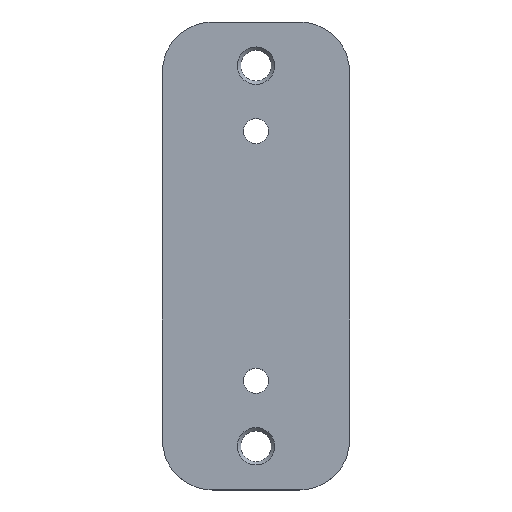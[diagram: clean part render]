
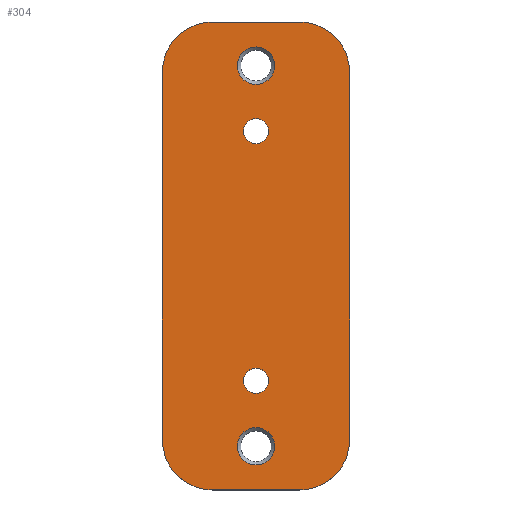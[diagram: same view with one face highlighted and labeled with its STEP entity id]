
A CAD part, top view. The second image highlights one B-rep face of the part: STEP entity #304.
In plain terms, the highlighted planar face has unit normal (0, 0, 1).
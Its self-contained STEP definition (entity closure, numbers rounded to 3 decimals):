
#25=CIRCLE('',#328,8.);
#27=CIRCLE('',#332,8.);
#29=CIRCLE('',#336,8.);
#30=CIRCLE('',#339,2.);
#32=CIRCLE('',#342,2.);
#35=CIRCLE('',#346,8.);
#36=CIRCLE('',#348,3.);
#37=CIRCLE('',#349,3.);
#88=ORIENTED_EDGE('',*,*,#152,.T.);
#89=ORIENTED_EDGE('',*,*,#153,.T.);
#90=ORIENTED_EDGE('',*,*,#148,.F.);
#91=ORIENTED_EDGE('',*,*,#146,.F.);
#92=ORIENTED_EDGE('',*,*,#126,.T.);
#93=ORIENTED_EDGE('',*,*,#130,.T.);
#94=ORIENTED_EDGE('',*,*,#133,.T.);
#95=ORIENTED_EDGE('',*,*,#136,.T.);
#96=ORIENTED_EDGE('',*,*,#139,.T.);
#97=ORIENTED_EDGE('',*,*,#142,.T.);
#98=ORIENTED_EDGE('',*,*,#145,.T.);
#99=ORIENTED_EDGE('',*,*,#151,.T.);
#126=EDGE_CURVE('',#163,#162,#190,.T.);
#130=EDGE_CURVE('',#162,#165,#25,.T.);
#133=EDGE_CURVE('',#165,#167,#195,.T.);
#136=EDGE_CURVE('',#167,#169,#27,.T.);
#139=EDGE_CURVE('',#169,#171,#199,.T.);
#142=EDGE_CURVE('',#171,#173,#29,.T.);
#145=EDGE_CURVE('',#173,#175,#203,.T.);
#146=EDGE_CURVE('',#176,#176,#30,.T.);
#148=EDGE_CURVE('',#178,#178,#32,.T.);
#151=EDGE_CURVE('',#175,#163,#35,.T.);
#152=EDGE_CURVE('',#180,#180,#36,.T.);
#153=EDGE_CURVE('',#181,#181,#37,.T.);
#162=VERTEX_POINT('',#463);
#163=VERTEX_POINT('',#465);
#165=VERTEX_POINT('',#471);
#167=VERTEX_POINT('',#477);
#169=VERTEX_POINT('',#483);
#171=VERTEX_POINT('',#489);
#173=VERTEX_POINT('',#495);
#175=VERTEX_POINT('',#501);
#176=VERTEX_POINT('',#505);
#178=VERTEX_POINT('',#510);
#180=VERTEX_POINT('',#518);
#181=VERTEX_POINT('',#520);
#190=LINE('',#464,#206);
#195=LINE('',#478,#211);
#199=LINE('',#490,#215);
#203=LINE('',#502,#219);
#206=VECTOR('',#369,1000.);
#211=VECTOR('',#382,1000.);
#215=VECTOR('',#394,1000.);
#219=VECTOR('',#406,1000.);
#232=EDGE_LOOP('',(#88));
#233=EDGE_LOOP('',(#89));
#234=EDGE_LOOP('',(#90));
#235=EDGE_LOOP('',(#91));
#236=EDGE_LOOP('',(#92,#93,#94,#95,#96,#97,#98,#99));
#266=FACE_BOUND('',#232,.T.);
#267=FACE_BOUND('',#233,.T.);
#268=FACE_BOUND('',#234,.T.);
#269=FACE_BOUND('',#235,.T.);
#270=FACE_BOUND('',#236,.T.);
#292=PLANE('',#347);
#304=ADVANCED_FACE('',(#266,#267,#268,#269,#270),#292,.T.);
#328=AXIS2_PLACEMENT_3D('',#472,#376,#377);
#332=AXIS2_PLACEMENT_3D('',#484,#388,#389);
#336=AXIS2_PLACEMENT_3D('',#496,#400,#401);
#339=AXIS2_PLACEMENT_3D('',#504,#409,#410);
#342=AXIS2_PLACEMENT_3D('',#509,#415,#416);
#346=AXIS2_PLACEMENT_3D('',#515,#423,#424);
#347=AXIS2_PLACEMENT_3D('',#516,#425,#426);
#348=AXIS2_PLACEMENT_3D('',#517,#427,#428);
#349=AXIS2_PLACEMENT_3D('',#519,#429,#430);
#369=DIRECTION('',(0.,-1.,0.));
#376=DIRECTION('',(0.,0.,1.));
#377=DIRECTION('',(1.,0.,0.));
#382=DIRECTION('',(1.,0.,0.));
#388=DIRECTION('',(0.,0.,1.));
#389=DIRECTION('',(1.,0.,0.));
#394=DIRECTION('',(0.,1.,0.));
#400=DIRECTION('',(0.,0.,1.));
#401=DIRECTION('',(1.,0.,0.));
#406=DIRECTION('',(-1.,0.,0.));
#409=DIRECTION('',(0.,0.,1.));
#410=DIRECTION('',(1.,0.,0.));
#415=DIRECTION('',(0.,0.,1.));
#416=DIRECTION('',(1.,0.,0.));
#423=DIRECTION('',(0.,0.,1.));
#424=DIRECTION('',(1.,0.,0.));
#425=DIRECTION('',(0.,0.,1.));
#426=DIRECTION('',(1.,0.,0.));
#427=DIRECTION('',(0.,0.,-1.));
#428=DIRECTION('',(-1.,0.,0.));
#429=DIRECTION('',(0.,0.,-1.));
#430=DIRECTION('',(-1.,0.,0.));
#463=CARTESIAN_POINT('',(-15.,-29.5,4.));
#464=CARTESIAN_POINT('',(-15.,29.5,4.));
#465=CARTESIAN_POINT('',(-15.,29.5,4.));
#471=CARTESIAN_POINT('',(-7.,-37.5,4.));
#472=CARTESIAN_POINT('',(-7.,-29.5,4.));
#477=CARTESIAN_POINT('',(7.,-37.5,4.));
#478=CARTESIAN_POINT('',(-7.,-37.5,4.));
#483=CARTESIAN_POINT('',(15.,-29.5,4.));
#484=CARTESIAN_POINT('',(7.,-29.5,4.));
#489=CARTESIAN_POINT('',(15.,29.5,4.));
#490=CARTESIAN_POINT('',(15.,-29.5,4.));
#495=CARTESIAN_POINT('',(7.,37.5,4.));
#496=CARTESIAN_POINT('',(7.,29.5,4.));
#501=CARTESIAN_POINT('',(-7.,37.5,4.));
#502=CARTESIAN_POINT('',(7.,37.5,4.));
#504=CARTESIAN_POINT('',(0.,20.,4.));
#505=CARTESIAN_POINT('',(2.,20.,4.));
#509=CARTESIAN_POINT('',(0.,-20.,4.));
#510=CARTESIAN_POINT('',(2.,-20.,4.));
#515=CARTESIAN_POINT('',(-7.,29.5,4.));
#516=CARTESIAN_POINT('',(-7.,-29.5,4.));
#517=CARTESIAN_POINT('',(0.,-30.5,4.));
#518=CARTESIAN_POINT('',(-3.,-30.5,4.));
#519=CARTESIAN_POINT('',(0.,30.5,4.));
#520=CARTESIAN_POINT('',(-3.,30.5,4.));
